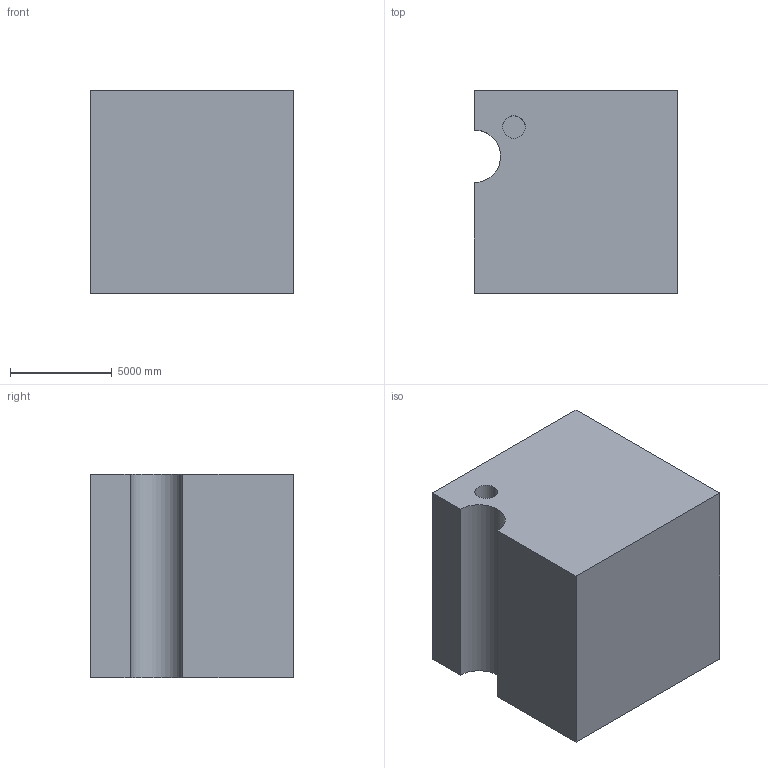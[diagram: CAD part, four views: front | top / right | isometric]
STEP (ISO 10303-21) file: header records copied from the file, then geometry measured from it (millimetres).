
FILE_DESCRIPTION (( 'STEP AP203' ), '1' );
FILE_NAME ('137.STEP', '2022-09-06T15:11:04', ( 'user' ), ( '' ), 'SwSTEP 2.0', 'SolidWorks 2021', '' );
FILE_SCHEMA (( 'CONFIG_CONTROL_DESIGN' ));
Length unit declared in the file: centimetre
Products named in the file (1): 137
Bounding box: 10000 x 10000 x 10000 mm (x, y, z)
Volume: 929072491440.1 mm3; surface area: 651117427.8 mm2
Topology: 1 solids, 1 shells, 17 faces, 45 edges, 30 vertices
Faces by surface type: plane 14, cylinder 3
Entity records: 606 total; most frequent: CARTESIAN_POINT 105, ORIENTED_EDGE 90, DIRECTION 83, EDGE_CURVE 45, VECTOR 35, LINE 35, VERTEX_POINT 30, AXIS2_PLACEMENT_3D 24
